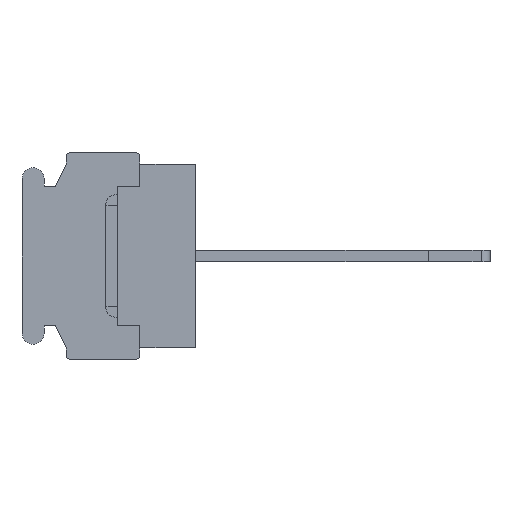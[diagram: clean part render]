
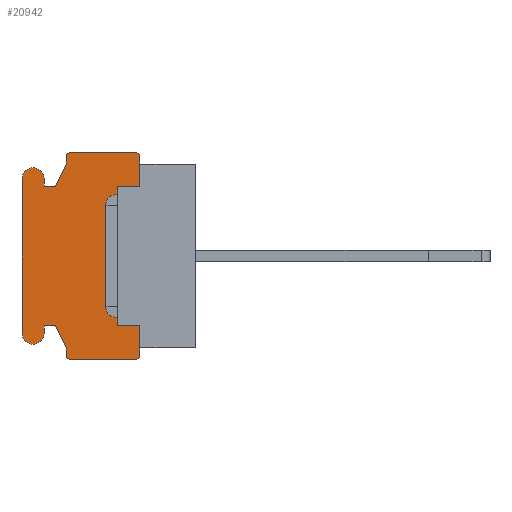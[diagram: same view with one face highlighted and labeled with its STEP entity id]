
A CAD part, left-side view. The second image highlights one B-rep face of the part: STEP entity #20942.
In plain terms, the highlighted planar face has unit normal (-1, 0, 0).
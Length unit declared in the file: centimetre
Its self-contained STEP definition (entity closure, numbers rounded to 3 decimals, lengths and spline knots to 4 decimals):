
#1252=PLANE('',#34067);
#2001=VECTOR('',#22270,1.);
#3232=VECTOR('',#24851,1.);
#3233=VECTOR('',#24852,1.);
#3234=VECTOR('',#24855,1.);
#3235=VECTOR('',#24858,1.);
#3236=VECTOR('',#24859,1.);
#3237=VECTOR('',#24860,1.);
#3238=VECTOR('',#24861,1.);
#3239=VECTOR('',#24864,1.);
#3240=VECTOR('',#24867,1.);
#3241=VECTOR('',#24868,1.);
#3242=VECTOR('',#24869,1.);
#3243=VECTOR('',#24870,1.);
#3244=VECTOR('',#24873,1.);
#3245=VECTOR('',#24876,1.);
#3246=VECTOR('',#24877,1.);
#3247=VECTOR('',#24878,1.);
#3248=VECTOR('',#24879,1.);
#4277=LINE('',#27615,#2001);
#5508=LINE('',#31255,#3232);
#5509=LINE('',#31257,#3233);
#5510=LINE('',#31261,#3234);
#5511=LINE('',#31265,#3235);
#5512=LINE('',#31267,#3236);
#5513=LINE('',#31269,#3237);
#5514=LINE('',#31271,#3238);
#5515=LINE('',#31275,#3239);
#5516=LINE('',#31279,#3240);
#5517=LINE('',#31281,#3241);
#5518=LINE('',#31283,#3242);
#5519=LINE('',#31285,#3243);
#5520=LINE('',#31289,#3244);
#5521=LINE('',#31293,#3245);
#5522=LINE('',#31294,#3246);
#5523=LINE('',#31296,#3247);
#5524=LINE('',#31297,#3248);
#6492=VERTEX_POINT('',#27616);
#6493=VERTEX_POINT('',#27617);
#6594=VERTEX_POINT('',#27901);
#6629=VERTEX_POINT('',#27976);
#7614=VERTEX_POINT('',#31256);
#7615=VERTEX_POINT('',#31258);
#7616=VERTEX_POINT('',#31260);
#7617=VERTEX_POINT('',#31262);
#7618=VERTEX_POINT('',#31264);
#7619=VERTEX_POINT('',#31266);
#7620=VERTEX_POINT('',#31268);
#7621=VERTEX_POINT('',#31270);
#7622=VERTEX_POINT('',#31272);
#7623=VERTEX_POINT('',#31274);
#7624=VERTEX_POINT('',#31276);
#7625=VERTEX_POINT('',#31278);
#7626=VERTEX_POINT('',#31280);
#7627=VERTEX_POINT('',#31282);
#7628=VERTEX_POINT('',#31284);
#7629=VERTEX_POINT('',#31286);
#7630=VERTEX_POINT('',#31288);
#7631=VERTEX_POINT('',#31290);
#7632=VERTEX_POINT('',#31292);
#7633=VERTEX_POINT('',#31295);
#8338=CIRCLE('',#34068,0.02);
#8339=CIRCLE('',#34069,0.02);
#8340=CIRCLE('',#34070,0.075);
#8341=CIRCLE('',#34071,0.075);
#8342=CIRCLE('',#34072,0.02);
#8343=CIRCLE('',#34073,0.02);
#9146=EDGE_CURVE('',#6492,#6493,#4277,.T.);
#10853=EDGE_CURVE('',#7614,#6594,#5508,.T.);
#10854=EDGE_CURVE('',#7615,#6594,#5509,.T.);
#10855=EDGE_CURVE('',#7616,#7615,#8338,.T.);
#10856=EDGE_CURVE('',#7617,#7616,#5510,.T.);
#10857=EDGE_CURVE('',#7618,#7617,#8339,.T.);
#10858=EDGE_CURVE('',#7619,#7618,#5511,.T.);
#10859=EDGE_CURVE('',#7620,#7619,#5512,.T.);
#10860=EDGE_CURVE('',#7621,#7620,#5513,.T.);
#10861=EDGE_CURVE('',#7622,#7621,#5514,.T.);
#10862=EDGE_CURVE('',#7623,#7622,#8340,.T.);
#10863=EDGE_CURVE('',#7624,#7623,#5515,.T.);
#10864=EDGE_CURVE('',#7625,#7624,#8341,.T.);
#10865=EDGE_CURVE('',#7626,#7625,#5516,.T.);
#10866=EDGE_CURVE('',#7627,#7626,#5517,.T.);
#10867=EDGE_CURVE('',#7628,#7627,#5518,.T.);
#10868=EDGE_CURVE('',#7629,#7628,#5519,.T.);
#10869=EDGE_CURVE('',#7630,#7629,#8342,.T.);
#10870=EDGE_CURVE('',#7631,#7630,#5520,.T.);
#10871=EDGE_CURVE('',#7632,#7631,#8343,.T.);
#10872=EDGE_CURVE('',#6629,#7632,#5521,.T.);
#10873=EDGE_CURVE('',#6629,#7633,#5522,.T.);
#10874=EDGE_CURVE('',#7633,#6492,#5523,.T.);
#10875=EDGE_CURVE('',#6493,#7614,#5524,.T.);
#16391=ORIENTED_EDGE('',*,*,#10853,.T.);
#16392=ORIENTED_EDGE('',*,*,#10854,.F.);
#16393=ORIENTED_EDGE('',*,*,#10855,.F.);
#16394=ORIENTED_EDGE('',*,*,#10856,.F.);
#16395=ORIENTED_EDGE('',*,*,#10857,.F.);
#16396=ORIENTED_EDGE('',*,*,#10858,.F.);
#16397=ORIENTED_EDGE('',*,*,#10859,.F.);
#16398=ORIENTED_EDGE('',*,*,#10860,.F.);
#16399=ORIENTED_EDGE('',*,*,#10861,.F.);
#16400=ORIENTED_EDGE('',*,*,#10862,.F.);
#16401=ORIENTED_EDGE('',*,*,#10863,.F.);
#16402=ORIENTED_EDGE('',*,*,#10864,.F.);
#16403=ORIENTED_EDGE('',*,*,#10865,.F.);
#16404=ORIENTED_EDGE('',*,*,#10866,.F.);
#16405=ORIENTED_EDGE('',*,*,#10867,.F.);
#16406=ORIENTED_EDGE('',*,*,#10868,.F.);
#16407=ORIENTED_EDGE('',*,*,#10869,.F.);
#16408=ORIENTED_EDGE('',*,*,#10870,.F.);
#16409=ORIENTED_EDGE('',*,*,#10871,.F.);
#16410=ORIENTED_EDGE('',*,*,#10872,.F.);
#16411=ORIENTED_EDGE('',*,*,#10873,.T.);
#16412=ORIENTED_EDGE('',*,*,#10874,.T.);
#16413=ORIENTED_EDGE('',*,*,#9146,.T.);
#16414=ORIENTED_EDGE('',*,*,#10875,.T.);
#18550=EDGE_LOOP('',(#16391,#16392,#16393,#16394,#16395,#16396,#16397,#16398,
#16399,#16400,#16401,#16402,#16403,#16404,#16405,#16406,#16407,#16408,#16409,
#16410,#16411,#16412,#16413,#16414));
#19784=FACE_BOUND('',#18550,.T.);
#20942=ADVANCED_FACE('',(#19784),#1252,.F.);
#22270=DIRECTION('',(0.,0.,1.));
#24850=DIRECTION('',(1.,0.,0.));
#24851=DIRECTION('',(0.,0.,1.));
#24852=DIRECTION('',(0.,0.,-1.));
#24853=DIRECTION('',(1.,0.,0.));
#24854=DIRECTION('',(0.,0.,-0.02));
#24855=DIRECTION('',(0.,-1.,0.));
#24856=DIRECTION('',(1.,0.,0.));
#24857=DIRECTION('',(0.,0.,-0.02));
#24858=DIRECTION('',(0.,0.,1.));
#24859=DIRECTION('',(0.,-0.447,0.894));
#24860=DIRECTION('',(0.,-1.,0.));
#24861=DIRECTION('',(0.,0.,-1.));
#24862=DIRECTION('',(1.,0.,0.));
#24863=DIRECTION('',(0.,0.,-0.075));
#24864=DIRECTION('',(0.,0.,1.));
#24865=DIRECTION('',(1.,0.,0.));
#24866=DIRECTION('',(0.,0.,-0.075));
#24867=DIRECTION('',(0.,0.,-1.));
#24868=DIRECTION('',(0.,1.,0.));
#24869=DIRECTION('',(0.,0.447,0.894));
#24870=DIRECTION('',(0.,0.,1.));
#24871=DIRECTION('',(1.,0.,0.));
#24872=DIRECTION('',(0.,0.,-0.02));
#24873=DIRECTION('',(0.,1.,0.));
#24874=DIRECTION('',(1.,0.,0.));
#24875=DIRECTION('',(0.,0.,-0.02));
#24876=DIRECTION('',(0.,0.,-1.));
#24877=DIRECTION('',(0.,0.,1.));
#24878=DIRECTION('',(0.,1.,0.));
#24879=DIRECTION('',(0.,-1.,0.));
#27615=CARTESIAN_POINT('',(-0.762,0.53,0.));
#27616=CARTESIAN_POINT('',(-0.762,0.53,-0.475));
#27617=CARTESIAN_POINT('',(-0.762,0.53,0.475));
#27901=CARTESIAN_POINT('',(-0.762,0.38,0.625));
#27976=CARTESIAN_POINT('',(-0.762,0.38,-0.625));
#31254=CARTESIAN_POINT('',(-0.762,0.6059,0.));
#31255=CARTESIAN_POINT('',(-0.762,0.38,0.275));
#31256=CARTESIAN_POINT('',(-0.762,0.38,0.475));
#31257=CARTESIAN_POINT('',(-0.762,0.38,0.68));
#31258=CARTESIAN_POINT('',(-0.762,0.38,0.68));
#31259=CARTESIAN_POINT('',(-0.762,0.4,0.68));
#31260=CARTESIAN_POINT('',(-0.762,0.4,0.7));
#31261=CARTESIAN_POINT('',(-0.762,0.86,0.7));
#31262=CARTESIAN_POINT('',(-0.762,0.86,0.7));
#31263=CARTESIAN_POINT('',(-0.762,0.86,0.68));
#31264=CARTESIAN_POINT('',(-0.762,0.88,0.68));
#31265=CARTESIAN_POINT('',(-0.762,0.88,0.625));
#31266=CARTESIAN_POINT('',(-0.762,0.88,0.625));
#31267=CARTESIAN_POINT('',(-0.762,0.955,0.475));
#31268=CARTESIAN_POINT('',(-0.762,0.955,0.475));
#31269=CARTESIAN_POINT('',(-0.762,1.03,0.475));
#31270=CARTESIAN_POINT('',(-0.762,1.03,0.475));
#31271=CARTESIAN_POINT('',(-0.762,1.03,0.525));
#31272=CARTESIAN_POINT('',(-0.762,1.03,0.525));
#31273=CARTESIAN_POINT('',(-0.762,1.105,0.525));
#31274=CARTESIAN_POINT('',(-0.762,1.18,0.525));
#31275=CARTESIAN_POINT('',(-0.762,1.18,-0.525));
#31276=CARTESIAN_POINT('',(-0.762,1.18,-0.525));
#31277=CARTESIAN_POINT('',(-0.762,1.105,-0.525));
#31278=CARTESIAN_POINT('',(-0.762,1.03,-0.525));
#31279=CARTESIAN_POINT('',(-0.762,1.03,-0.475));
#31280=CARTESIAN_POINT('',(-0.762,1.03,-0.475));
#31281=CARTESIAN_POINT('',(-0.762,0.955,-0.475));
#31282=CARTESIAN_POINT('',(-0.762,0.955,-0.475));
#31283=CARTESIAN_POINT('',(-0.762,0.88,-0.625));
#31284=CARTESIAN_POINT('',(-0.762,0.88,-0.625));
#31285=CARTESIAN_POINT('',(-0.762,0.88,-0.68));
#31286=CARTESIAN_POINT('',(-0.762,0.88,-0.68));
#31287=CARTESIAN_POINT('',(-0.762,0.86,-0.68));
#31288=CARTESIAN_POINT('',(-0.762,0.86,-0.7));
#31289=CARTESIAN_POINT('',(-0.762,0.4,-0.7));
#31290=CARTESIAN_POINT('',(-0.762,0.4,-0.7));
#31291=CARTESIAN_POINT('',(-0.762,0.4,-0.68));
#31292=CARTESIAN_POINT('',(-0.762,0.38,-0.68));
#31293=CARTESIAN_POINT('',(-0.762,0.38,-0.625));
#31294=CARTESIAN_POINT('',(-0.762,0.38,-0.275));
#31295=CARTESIAN_POINT('',(-0.762,0.38,-0.475));
#31296=CARTESIAN_POINT('',(-0.762,0.5304,-0.475));
#31297=CARTESIAN_POINT('',(-0.762,0.5304,0.475));
#34067=AXIS2_PLACEMENT_3D('',#31254,#24850,$);
#34068=AXIS2_PLACEMENT_3D('',#31259,#24853,#24854);
#34069=AXIS2_PLACEMENT_3D('',#31263,#24856,#24857);
#34070=AXIS2_PLACEMENT_3D('',#31273,#24862,#24863);
#34071=AXIS2_PLACEMENT_3D('',#31277,#24865,#24866);
#34072=AXIS2_PLACEMENT_3D('',#31287,#24871,#24872);
#34073=AXIS2_PLACEMENT_3D('',#31291,#24874,#24875);
